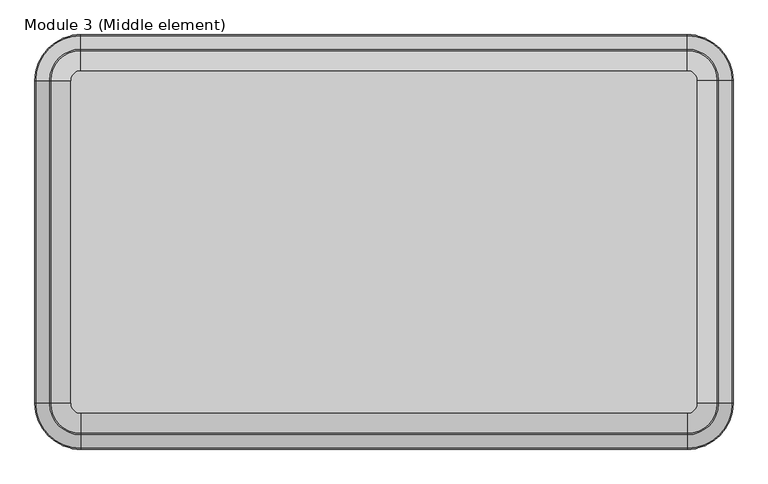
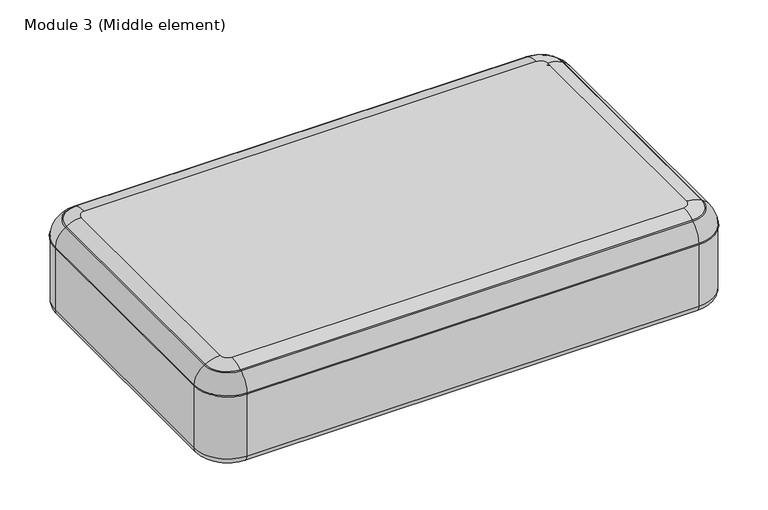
"""IFC4 building model written with IfcOpenShell, lengths in millimetres: furniture geometry, Module 3 (Middle element) : 1400х930х710мм."""

from ifc_helpers import new_model, si_unit, point, frame, origin, place, context, project, spatial, polyline, circle_curve, ellipse_curve, trimmed, source, transform, mapped, element, save
from ifc_brep_helpers import plane_surface, cylinder_surface, revolved_surface, advanced_brep


def module_3_middle_element_18c09e5f(model_context):
    return source(origin(), model_context, "Body", "AdvancedBrep", [
        advanced_brep(
        [(90.0, -930.0, 190.0), (0.0, -840.0, 190.0), (20.0, -840.0, 170.0), (90.0, -910.0, 170.0), (90.0, -930.0, 369.0816596), (0.0, -840.0, 369.0816596), (90.0, -903.0932178, 417.1277728), (26.9067822, -840.0, 417.1277728), (0.0043962, -840.0, 370.2686252), (90.0, -929.9956038, 370.2686252), (90.0, -900.2270188, 418.8499589), (29.7729812, -840.0, 418.8499589), (90.0, -860.0212696, 430.0), (69.9787304, -840.0, 430.0), (1310.0, -910.0, 170.0), (1310.0, -930.0, 190.0), (1310.0, -930.0, 369.0816596), (1310.0, -929.9956038, 370.2686252), (1310.0, -903.0932178, 417.1277728), (1310.0, -900.2270188, 418.8499589), (1310.0, -860.0212696, 430.0), (1380.0, -840.0, 170.0), (1400.0, -840.0, 190.0), (1400.0, -840.0, 369.0816596), (1399.9956038, -840.0, 370.2686252), (1373.0932178, -840.0, 417.1277728), (1370.2270188, -840.0, 418.8499589), (1330.0212696, -840.0, 430.0), (1380.0, -190.0, 170.0), (1400.0, -190.0, 190.0), (1400.0, -190.0, 369.0816596), (1399.9956038, -190.0, 370.2686252), (1373.0932178, -190.0, 417.1277728), (1370.2270188, -190.0, 418.8499589), (1330.0212696, -190.0, 430.0), (1310.0, -120.0, 170.0), (1310.0, -100.0, 190.0), (1310.0, -100.0, 369.0816596), (1310.0, -100.0043962, 370.2686252), (1310.0, -126.9067822, 417.1277728), (1310.0, -129.7729812, 418.8499589), (1310.0, -169.9787304, 430.0), (90.0, -120.0, 170.0), (90.0, -100.0, 190.0), (90.0, -100.0, 369.0816596), (90.0, -100.0043962, 370.2686252), (90.0, -126.9067822, 417.1277728), (90.0, -129.7729812, 418.8499589), (90.0, -169.9787304, 430.0), (20.0, -190.0, 170.0), (0.0, -190.0, 190.0), (0.0, -190.0, 369.0816596), (0.0043962, -190.0, 370.2686252), (26.9067822, -190.0, 417.1277728), (29.7729812, -190.0, 418.8499589), (69.9787304, -190.0, 430.0)],
        [
            (0, 1, circle_curve(frame((90.0, -840.0, 190.0), z_axis=(0.0, 0.0, -1.0), x_axis=(-1.0, 0.0, 0.0)), 90.0)),
            (1, 2, circle_curve(frame((20.0, -840.0, 190.0), z_axis=(0.0, -1.0, 0.0), x_axis=(1.0, 0.0, 0.0)), 20.0)),
            (2, 3, circle_curve(frame((90.0, -840.0, 170.0), z_axis=(0.0, 0.0, 1.0), x_axis=(-1.0, 0.0, 0.0)), 70.0)),
            (3, 0, circle_curve(frame((90.0, -910.0, 190.0), z_axis=(-1.0, 0.0, 0.0), x_axis=(0.0, 1.0, 0.0)), 20.0)),
            (0, 4),
            (4, 5, circle_curve(frame((90.0, -840.0, 369.0816596), z_axis=(0.0, 0.0, -1.0), x_axis=(-1.0, 0.0, 0.0)), 90.0)),
            (5, 1),
            (6, 7, circle_curve(frame((90.0, -840.0, 417.1277728), z_axis=(0.0, 0.0, -1.0), x_axis=(-1.0, 0.0, 0.0)), 63.0932178)),
            (7, 8, circle_curve(frame((55.482257, -840.0, 369.5701963), z_axis=(0.0, -1.0, 0.0), x_axis=(1.0, 0.0, 0.0)), 55.482257)),
            (8, 9, circle_curve(frame((90.0, -840.0, 370.2686252), z_axis=(0.0, 0.0, 1.0), x_axis=(-1.0, 0.0, 0.0)), 89.9956038)),
            (9, 6, circle_curve(frame((90.0, -874.517743, 369.5701963), z_axis=(-1.0, 0.0, 0.0), x_axis=(0.0, 1.0, 0.0)), 55.482257)),
            (6, 10),
            (10, 11, circle_curve(frame((90.0, -840.0, 418.8499589), z_axis=(0.0, 0.0, -1.0), x_axis=(-1.0, 0.0, 0.0)), 60.2270188)),
            (11, 7),
            (10, 12, circle_curve(frame((90.0, -860.0212696, 351.9363554), z_axis=(-1.0, 0.0, 0.0), x_axis=(0.0, 1.0, 0.0)), 78.0636446)),
            (12, 13, circle_curve(frame((90.0, -840.0, 430.0), z_axis=(0.0, 0.0, -1.0), x_axis=(-1.0, 0.0, 0.0)), 20.0212696)),
            (13, 11, circle_curve(frame((69.9787304, -840.0, 351.9363554), z_axis=(0.0, -1.0, 0.0), x_axis=(1.0, 0.0, 0.0)), 78.0636446)),
            (3, 14),
            (14, 15, circle_curve(frame((1310.0, -910.0, 190.0), z_axis=(-1.0, 0.0, 0.0), x_axis=(0.0, 1.0, 0.0)), 20.0)),
            (15, 0),
            (15, 16),
            (16, 4),
            (9, 17),
            (17, 18, circle_curve(frame((1310.0, -874.517743, 369.5701963), z_axis=(-1.0, 0.0, 0.0), x_axis=(0.0, 1.0, 0.0)), 55.482257)),
            (18, 6),
            (18, 19),
            (19, 10),
            (19, 20, circle_curve(frame((1310.0, -860.0212696, 351.9363554), z_axis=(-1.0, 0.0, 0.0), x_axis=(0.0, 1.0, 0.0)), 78.0636446)),
            (20, 12),
            (14, 21, circle_curve(frame((1310.0, -840.0, 170.0), z_axis=(0.0, 0.0, 1.0), x_axis=(0.0, -1.0, 0.0)), 70.0)),
            (21, 22, circle_curve(frame((1380.0, -840.0, 190.0), z_axis=(0.0, -1.0, 0.0), x_axis=(-1.0, 0.0, 0.0)), 20.0)),
            (22, 15, circle_curve(frame((1310.0, -840.0, 190.0), z_axis=(0.0, 0.0, -1.0), x_axis=(0.0, -1.0, 0.0)), 90.0)),
            (22, 23),
            (23, 16, circle_curve(frame((1310.0, -840.0, 369.0816596), z_axis=(0.0, 0.0, -1.0), x_axis=(0.0, -1.0, 0.0)), 90.0)),
            (17, 24, circle_curve(frame((1310.0, -840.0, 370.2686252), z_axis=(0.0, 0.0, 1.0), x_axis=(0.0, -1.0, 0.0)), 89.9956038)),
            (24, 25, circle_curve(frame((1344.517743, -840.0, 369.5701963), z_axis=(0.0, -1.0, 0.0), x_axis=(-1.0, 0.0, 0.0)), 55.482257)),
            (25, 18, circle_curve(frame((1310.0, -840.0, 417.1277728), z_axis=(0.0, 0.0, -1.0), x_axis=(0.0, -1.0, 0.0)), 63.0932178)),
            (25, 26),
            (26, 19, circle_curve(frame((1310.0, -840.0, 418.8499589), z_axis=(0.0, 0.0, -1.0), x_axis=(0.0, -1.0, 0.0)), 60.2270188)),
            (26, 27, circle_curve(frame((1330.0212696, -840.0, 351.9363554), z_axis=(0.0, -1.0, 0.0), x_axis=(-1.0, 0.0, 0.0)), 78.0636446)),
            (27, 20, circle_curve(frame((1310.0, -840.0, 430.0), z_axis=(0.0, 0.0, -1.0), x_axis=(0.0, -1.0, 0.0)), 20.0212696)),
            (21, 28),
            (28, 29, circle_curve(frame((1380.0, -190.0, 190.0), z_axis=(0.0, -1.0, 0.0), x_axis=(-1.0, 0.0, 0.0)), 20.0)),
            (29, 22),
            (29, 30),
            (30, 23),
            (24, 31),
            (31, 32, circle_curve(frame((1344.517743, -190.0, 369.5701963), z_axis=(0.0, -1.0, 0.0), x_axis=(-1.0, 0.0, 0.0)), 55.482257)),
            (32, 25),
            (32, 33),
            (33, 26),
            (33, 34, circle_curve(frame((1330.0212696, -190.0, 351.9363554), z_axis=(0.0, -1.0, 0.0), x_axis=(-1.0, 0.0, 0.0)), 78.0636446)),
            (34, 27),
            (28, 35, circle_curve(frame((1310.0, -190.0, 170.0), z_axis=(0.0, 0.0, 1.0), x_axis=(1.0, 0.0, 0.0)), 70.0)),
            (35, 36, circle_curve(frame((1310.0, -120.0, 190.0), z_axis=(1.0, 0.0, 0.0), x_axis=(0.0, -1.0, 0.0)), 20.0)),
            (36, 29, circle_curve(frame((1310.0, -190.0, 190.0), z_axis=(0.0, 0.0, -1.0), x_axis=(1.0, 0.0, 0.0)), 90.0)),
            (36, 37),
            (37, 30, circle_curve(frame((1310.0, -190.0, 369.0816596), z_axis=(0.0, 0.0, -1.0), x_axis=(1.0, 0.0, 0.0)), 90.0)),
            (31, 38, circle_curve(frame((1310.0, -190.0, 370.2686252), z_axis=(0.0, 0.0, 1.0), x_axis=(1.0, 0.0, 0.0)), 89.9956038)),
            (38, 39, circle_curve(frame((1310.0, -155.482257, 369.5701963), z_axis=(1.0, 0.0, 0.0), x_axis=(0.0, -1.0, 0.0)), 55.482257)),
            (39, 32, circle_curve(frame((1310.0, -190.0, 417.1277728), z_axis=(0.0, 0.0, -1.0), x_axis=(1.0, 0.0, 0.0)), 63.0932178)),
            (39, 40),
            (40, 33, circle_curve(frame((1310.0, -190.0, 418.8499589), z_axis=(0.0, 0.0, -1.0), x_axis=(1.0, 0.0, 0.0)), 60.2270188)),
            (40, 41, circle_curve(frame((1310.0, -169.9787304, 351.9363554), z_axis=(1.0, 0.0, 0.0), x_axis=(0.0, -1.0, 0.0)), 78.0636446)),
            (41, 34, circle_curve(frame((1310.0, -190.0, 430.0), z_axis=(0.0, 0.0, -1.0), x_axis=(1.0, 0.0, 0.0)), 20.0212696)),
            (35, 42),
            (42, 43, circle_curve(frame((90.0, -120.0, 190.0), z_axis=(1.0, 0.0, 0.0), x_axis=(0.0, -1.0, 0.0)), 20.0)),
            (43, 36),
            (43, 44),
            (44, 37),
            (38, 45),
            (45, 46, circle_curve(frame((90.0, -155.482257, 369.5701963), z_axis=(1.0, 0.0, 0.0), x_axis=(0.0, -1.0, 0.0)), 55.482257)),
            (46, 39),
            (46, 47),
            (47, 40),
            (47, 48, circle_curve(frame((90.0, -169.9787304, 351.9363554), z_axis=(1.0, 0.0, 0.0), x_axis=(0.0, -1.0, 0.0)), 78.0636446)),
            (48, 41),
            (42, 49, circle_curve(frame((90.0, -190.0, 170.0), z_axis=(0.0, 0.0, 1.0), x_axis=(0.0, 1.0, 0.0)), 70.0)),
            (49, 50, circle_curve(frame((20.0, -190.0, 190.0), z_axis=(0.0, 1.0, 0.0), x_axis=(1.0, 0.0, 0.0)), 20.0)),
            (50, 43, circle_curve(frame((90.0, -190.0, 190.0), z_axis=(0.0, 0.0, -1.0), x_axis=(0.0, 1.0, 0.0)), 90.0)),
            (50, 51),
            (51, 44, circle_curve(frame((90.0, -190.0, 369.0816596), z_axis=(0.0, 0.0, -1.0), x_axis=(0.0, 1.0, 0.0)), 90.0)),
            (45, 52, circle_curve(frame((90.0, -190.0, 370.2686252), z_axis=(0.0, 0.0, 1.0), x_axis=(0.0, 1.0, 0.0)), 89.9956038)),
            (52, 53, circle_curve(frame((55.482257, -190.0, 369.5701963), z_axis=(0.0, 1.0, 0.0), x_axis=(1.0, 0.0, 0.0)), 55.482257)),
            (53, 46, circle_curve(frame((90.0, -190.0, 417.1277728), z_axis=(0.0, 0.0, -1.0), x_axis=(0.0, 1.0, 0.0)), 63.0932178)),
            (53, 54),
            (54, 47, circle_curve(frame((90.0, -190.0, 418.8499589), z_axis=(0.0, 0.0, -1.0), x_axis=(0.0, 1.0, 0.0)), 60.2270188)),
            (54, 55, circle_curve(frame((69.9787304, -190.0, 351.9363554), z_axis=(0.0, 1.0, 0.0), x_axis=(1.0, 0.0, 0.0)), 78.0636446)),
            (55, 48, circle_curve(frame((90.0, -190.0, 430.0), z_axis=(0.0, 0.0, -1.0), x_axis=(0.0, 1.0, 0.0)), 20.0212696)),
            (55, 13),
            (2, 49),
            (1, 50),
            (5, 51),
            (7, 53),
            (52, 8),
            (11, 54),
            (4, 9, circle_curve(frame((90.0, -930.8026401, 369.6781233), z_axis=(-1.0, 0.0, 0.0), x_axis=(0.0, 1.0, 0.0)), 1.0)),
            (8, 5, circle_curve(frame((-0.8026401, -840.0, 369.6781233), z_axis=(0.0, -1.0, 0.0), x_axis=(1.0, 0.0, 0.0)), 1.0)),
            (16, 17, circle_curve(frame((1310.0, -930.8026401, 369.6781233), z_axis=(-1.0, 0.0, 0.0), x_axis=(0.0, 1.0, 0.0)), 1.0)),
            (23, 24, circle_curve(frame((1400.8026401, -840.0, 369.6781233), z_axis=(0.0, -1.0, 0.0), x_axis=(-1.0, 0.0, 0.0)), 1.0)),
            (30, 31, circle_curve(frame((1400.8026401, -190.0, 369.6781233), z_axis=(0.0, -1.0, 0.0), x_axis=(-1.0, 0.0, 0.0)), 1.0)),
            (37, 38, circle_curve(frame((1310.0, -99.1973599, 369.6781233), z_axis=(1.0, 0.0, 0.0), x_axis=(0.0, -1.0, 0.0)), 1.0)),
            (44, 45, circle_curve(frame((90.0, -99.1973599, 369.6781233), z_axis=(1.0, 0.0, 0.0), x_axis=(0.0, -1.0, 0.0)), 1.0)),
            (51, 52, circle_curve(frame((-0.8026401, -190.0, 369.6781233), z_axis=(0.0, 1.0, 0.0), x_axis=(1.0, 0.0, 0.0)), 1.0)),
        ],
        [
            revolved_surface(trimmed(ellipse_curve(frame((20.0, -840.0, 190.0), z_axis=(0.0, 1.0, 0.0), x_axis=(1.0, 0.0, 0.0)), 20.0, 20.0), [point((20.0, -840.0, 170.0))], [point((0.0, -840.0, 190.0))], True, "CARTESIAN"), (90.0, -840.0, 430.0), (0.0, 0.0, 1.0)),
            cylinder_surface(frame((90.0, -840.0, 430.0), z_axis=(0.0, 0.0, 1.0), x_axis=(-1.0, 0.0, 0.0)), 90.0),
            revolved_surface(trimmed(ellipse_curve(frame((55.482257, -840.0, 369.5701963), z_axis=(0.0, 1.0, 0.0), x_axis=(1.0, 0.0, 0.0)), 55.482257, 55.482257), [point((0.0043962, -840.0, 370.2686252))], [point((26.9067822, -840.0, 417.1277728))], True, "CARTESIAN"), (90.0, -840.0, 430.0), (0.0, 0.0, 1.0)),
            revolved_surface(polyline([(26.9067822, -840.0, 417.1277728), (29.7729812, -840.0, 418.8499589)]), (90.0, -840.0, 430.0), (0.0, 0.0, 1.0)),
            revolved_surface(trimmed(ellipse_curve(frame((69.9787304, -840.0, 351.9363554), z_axis=(0.0, 1.0, 0.0), x_axis=(1.0, 0.0, 0.0)), 78.0636446, 78.0636446), [point((29.7729812, -840.0, 418.8499589))], [point((69.9787304, -840.0, 430.0))], True, "CARTESIAN"), (90.0, -840.0, 430.0), (0.0, 0.0, 1.0)),
            cylinder_surface(frame((90.0, -910.0, 190.0), z_axis=(-1.0, 0.0, 0.0), x_axis=(0.0, 1.0, 0.0)), 20.0),
            plane_surface(frame((90.0, -930.0, 190.0), z_axis=(0.0, -1.0, 0.0), x_axis=(1.0, 0.0, 0.0))),
            cylinder_surface(frame((90.0, -874.517743, 369.5701963), z_axis=(-1.0, 0.0, 0.0), x_axis=(0.0, 1.0, 0.0)), 55.482257),
            plane_surface(frame((90.0, -903.0932178, 417.1277728), z_axis=(0.0, -0.5150380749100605, 0.8571673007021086), x_axis=(1.0, 0.0, 0.0))),
            cylinder_surface(frame((90.0, -860.0212696, 351.9363554), z_axis=(-1.0, 0.0, 0.0), x_axis=(0.0, 1.0, 0.0)), 78.0636446),
            revolved_surface(trimmed(ellipse_curve(frame((1310.0, -910.0, 190.0), z_axis=(-1.0, 0.0, 0.0), x_axis=(0.0, 1.0, 0.0)), 20.0, 20.0), [point((1310.0, -910.0, 170.0))], [point((1310.0, -930.0, 190.0))], True, "CARTESIAN"), (1310.0, -840.0, 430.0), (0.0, 0.0, 1.0)),
            cylinder_surface(frame((1310.0, -840.0, 430.0), z_axis=(0.0, 0.0, 1.0), x_axis=(0.0, -1.0, 0.0)), 90.0),
            revolved_surface(trimmed(ellipse_curve(frame((1310.0, -874.517743, 369.5701963), z_axis=(-1.0, 0.0, 0.0), x_axis=(0.0, 1.0, 0.0)), 55.482257, 55.482257), [point((1310.0, -929.9956038, 370.2686252))], [point((1310.0, -903.0932178, 417.1277728))], True, "CARTESIAN"), (1310.0, -840.0, 430.0), (0.0, 0.0, 1.0)),
            revolved_surface(polyline([(1310.0, -903.0932178, 417.1277728), (1310.0, -900.2270188, 418.8499589)]), (1310.0, -840.0, 430.0), (0.0, 0.0, 1.0)),
            revolved_surface(trimmed(ellipse_curve(frame((1310.0, -860.0212696, 351.9363554), z_axis=(-1.0, 0.0, 0.0), x_axis=(0.0, 1.0, 0.0)), 78.0636446, 78.0636446), [point((1310.0, -900.2270188, 418.8499589))], [point((1310.0, -860.0212696, 430.0))], True, "CARTESIAN"), (1310.0, -840.0, 430.0), (0.0, 0.0, 1.0)),
            cylinder_surface(frame((1380.0, -840.0, 190.0), z_axis=(0.0, -1.0, 0.0), x_axis=(-1.0, 0.0, 0.0)), 20.0),
            plane_surface(frame((1400.0, -840.0, 190.0), z_axis=(1.0, 0.0, 0.0), x_axis=(0.0, 1.0, 0.0))),
            cylinder_surface(frame((1344.517743, -840.0, 369.5701963), z_axis=(0.0, -1.0, 0.0), x_axis=(-1.0, 0.0, 0.0)), 55.482257),
            plane_surface(frame((1373.0932178, -840.0, 417.1277728), z_axis=(0.5150380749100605, 0.0, 0.8571673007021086), x_axis=(0.0, 1.0, 0.0))),
            cylinder_surface(frame((1330.0212696, -840.0, 351.9363554), z_axis=(0.0, -1.0, 0.0), x_axis=(-1.0, 0.0, 0.0)), 78.0636446),
            revolved_surface(trimmed(ellipse_curve(frame((1380.0, -190.0, 190.0), z_axis=(0.0, -1.0, 0.0), x_axis=(-1.0, 0.0, 0.0)), 20.0, 20.0), [point((1380.0, -190.0, 170.0))], [point((1400.0, -190.0, 190.0))], True, "CARTESIAN"), (1310.0, -190.0, 430.0), (0.0, 0.0, 1.0)),
            cylinder_surface(frame((1310.0, -190.0, 430.0), z_axis=(0.0, 0.0, 1.0), x_axis=(1.0, 0.0, 0.0)), 90.0),
            revolved_surface(trimmed(ellipse_curve(frame((1344.517743, -190.0, 369.5701963), z_axis=(0.0, -1.0, 0.0), x_axis=(-1.0, 0.0, 0.0)), 55.482257, 55.482257), [point((1399.9956038, -190.0, 370.2686252))], [point((1373.0932178, -190.0, 417.1277728))], True, "CARTESIAN"), (1310.0, -190.0, 430.0), (0.0, 0.0, 1.0)),
            revolved_surface(polyline([(1373.0932178, -190.0, 417.1277728), (1370.2270188, -190.0, 418.8499589)]), (1310.0, -190.0, 430.0), (0.0, 0.0, 1.0)),
            revolved_surface(trimmed(ellipse_curve(frame((1330.0212696, -190.0, 351.9363554), z_axis=(0.0, -1.0, 0.0), x_axis=(-1.0, 0.0, 0.0)), 78.0636446, 78.0636446), [point((1370.2270188, -190.0, 418.8499589))], [point((1330.0212696, -190.0, 430.0))], True, "CARTESIAN"), (1310.0, -190.0, 430.0), (0.0, 0.0, 1.0)),
            cylinder_surface(frame((1310.0, -120.0, 190.0), z_axis=(1.0, 0.0, 0.0), x_axis=(0.0, -1.0, 0.0)), 20.0),
            plane_surface(frame((1310.0, -100.0, 190.0), z_axis=(0.0, 1.0, 0.0), x_axis=(-1.0, 0.0, 0.0))),
            cylinder_surface(frame((1310.0, -155.482257, 369.5701963), z_axis=(1.0, 0.0, 0.0), x_axis=(0.0, -1.0, 0.0)), 55.482257),
            plane_surface(frame((1310.0, -126.9067822, 417.1277728), z_axis=(0.0, 0.5150380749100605, 0.8571673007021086), x_axis=(-1.0, 0.0, 0.0))),
            cylinder_surface(frame((1310.0, -169.9787304, 351.9363554), z_axis=(1.0, 0.0, 0.0), x_axis=(0.0, -1.0, 0.0)), 78.0636446),
            revolved_surface(trimmed(ellipse_curve(frame((90.0, -120.0, 190.0), z_axis=(1.0, 0.0, 0.0), x_axis=(0.0, -1.0, 0.0)), 20.0, 20.0), [point((90.0, -120.0, 170.0))], [point((90.0, -100.0, 190.0))], True, "CARTESIAN"), (90.0, -190.0, 430.0), (0.0, 0.0, 1.0)),
            cylinder_surface(frame((90.0, -190.0, 430.0), z_axis=(0.0, 0.0, 1.0), x_axis=(0.0, 1.0, 0.0)), 90.0),
            revolved_surface(trimmed(ellipse_curve(frame((90.0, -155.482257, 369.5701963), z_axis=(1.0, 0.0, 0.0), x_axis=(0.0, -1.0, 0.0)), 55.482257, 55.482257), [point((90.0, -100.0043962, 370.2686252))], [point((90.0, -126.9067822, 417.1277728))], True, "CARTESIAN"), (90.0, -190.0, 430.0), (0.0, 0.0, 1.0)),
            revolved_surface(polyline([(90.0, -126.9067822, 417.1277728), (90.0, -129.7729812, 418.8499589)]), (90.0, -190.0, 430.0), (0.0, 0.0, 1.0)),
            revolved_surface(trimmed(ellipse_curve(frame((90.0, -169.9787304, 351.9363554), z_axis=(1.0, 0.0, 0.0), x_axis=(0.0, -1.0, 0.0)), 78.0636446, 78.0636446), [point((90.0, -129.7729812, 418.8499589))], [point((90.0, -169.9787304, 430.0))], True, "CARTESIAN"), (90.0, -190.0, 430.0), (0.0, 0.0, 1.0)),
            plane_surface(frame((69.9787304, -190.0, 430.0), z_axis=(0.0, 0.0, 1.0), x_axis=(0.0, -1.0, 0.0))),
            plane_surface(frame((80.0, -190.0, 170.0), z_axis=(0.0, 0.0, -1.0), x_axis=(0.0, -1.0, 0.0))),
            cylinder_surface(frame((20.0, -190.0, 190.0), z_axis=(0.0, 1.0, 0.0), x_axis=(1.0, 0.0, 0.0)), 20.0),
            plane_surface(frame((0.0, -190.0, 190.0), z_axis=(-1.0, 0.0, 0.0), x_axis=(0.0, -1.0, 0.0))),
            cylinder_surface(frame((55.482257, -190.0, 369.5701963), z_axis=(0.0, 1.0, 0.0), x_axis=(1.0, 0.0, 0.0)), 55.482257),
            plane_surface(frame((26.9067822, -190.0, 417.1277728), z_axis=(-0.5150380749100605, 0.0, 0.8571673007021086), x_axis=(0.0, -1.0, 0.0))),
            cylinder_surface(frame((69.9787304, -190.0, 351.9363554), z_axis=(0.0, 1.0, 0.0), x_axis=(1.0, 0.0, 0.0)), 78.0636446),
            revolved_surface(trimmed(ellipse_curve(frame((-0.8026401, -840.0, 369.6781233), z_axis=(0.0, 1.0, 0.0), x_axis=(1.0, 0.0, 0.0)), 1.0, 1.0), [point((0.0, -840.0, 369.0816596))], [point((0.0043962, -840.0, 370.2686252))], True, "CARTESIAN"), (90.0, -840.0, 430.0), (0.0, 0.0, 1.0)),
            cylinder_surface(frame((90.0, -930.8026401, 369.6781233), z_axis=(-1.0, 0.0, 0.0), x_axis=(0.0, 1.0, 0.0)), 1.0),
            revolved_surface(trimmed(ellipse_curve(frame((1310.0, -930.8026401, 369.6781233), z_axis=(-1.0, 0.0, 0.0), x_axis=(0.0, 1.0, 0.0)), 1.0, 1.0), [point((1310.0, -930.0, 369.0816596))], [point((1310.0, -929.9956038, 370.2686252))], True, "CARTESIAN"), (1310.0, -840.0, 430.0), (0.0, 0.0, 1.0)),
            cylinder_surface(frame((1400.8026401, -840.0, 369.6781233), z_axis=(0.0, -1.0, 0.0), x_axis=(-1.0, 0.0, 0.0)), 1.0),
            revolved_surface(trimmed(ellipse_curve(frame((1400.8026401, -190.0, 369.6781233), z_axis=(0.0, -1.0, 0.0), x_axis=(-1.0, 0.0, 0.0)), 1.0, 1.0), [point((1400.0, -190.0, 369.0816596))], [point((1399.9956038, -190.0, 370.2686252))], True, "CARTESIAN"), (1310.0, -190.0, 430.0), (0.0, 0.0, 1.0)),
            cylinder_surface(frame((1310.0, -99.1973599, 369.6781233), z_axis=(1.0, 0.0, 0.0), x_axis=(0.0, -1.0, 0.0)), 1.0),
            revolved_surface(trimmed(ellipse_curve(frame((90.0, -99.1973599, 369.6781233), z_axis=(1.0, 0.0, 0.0), x_axis=(0.0, -1.0, 0.0)), 1.0, 1.0), [point((90.0, -100.0, 369.0816596))], [point((90.0, -100.0043962, 370.2686252))], True, "CARTESIAN"), (90.0, -190.0, 430.0), (0.0, 0.0, 1.0)),
            cylinder_surface(frame((-0.8026401, -190.0, 369.6781233), z_axis=(0.0, 1.0, 0.0), x_axis=(1.0, 0.0, 0.0)), 1.0),
        ],
        [
            (0, [[1, 2, 3, 4]]),
            (1, [[-1, 5, 6, 7]]),
            (2, [[8, 9, 10, 11]]),
            (3, [[-8, 12, 13, 14]]),
            (4, [[-13, 15, 16, 17]]),
            (5, [[-4, 18, 19, 20]]),
            (6, [[-5, -20, 21, 22]]),
            (7, [[-11, 23, 24, 25]]),
            (8, [[-12, -25, 26, 27]]),
            (9, [[-15, -27, 28, 29]]),
            (10, [[-19, 30, 31, 32]]),
            (11, [[-21, -32, 33, 34]]),
            (12, [[-24, 35, 36, 37]]),
            (13, [[-26, -37, 38, 39]]),
            (14, [[-28, -39, 40, 41]]),
            (15, [[-31, 42, 43, 44]]),
            (16, [[-33, -44, 45, 46]]),
            (17, [[-36, 47, 48, 49]]),
            (18, [[-38, -49, 50, 51]]),
            (19, [[-40, -51, 52, 53]]),
            (20, [[-43, 54, 55, 56]]),
            (21, [[-45, -56, 57, 58]]),
            (22, [[-48, 59, 60, 61]]),
            (23, [[-50, -61, 62, 63]]),
            (24, [[-52, -63, 64, 65]]),
            (25, [[-55, 66, 67, 68]]),
            (26, [[-57, -68, 69, 70]]),
            (27, [[-60, 71, 72, 73]]),
            (28, [[-62, -73, 74, 75]]),
            (29, [[-64, -75, 76, 77]]),
            (30, [[-67, 78, 79, 80]]),
            (31, [[-69, -80, 81, 82]]),
            (32, [[-72, 83, 84, 85]]),
            (33, [[-74, -85, 86, 87]]),
            (34, [[-76, -87, 88, 89]]),
            (35, [[-16, -29, -41, -53, -65, -77, -89, 90]]),
            (36, [[-3, 91, -78, -66, -54, -42, -30, -18]]),
            (37, [[-2, 92, -79, -91]]),
            (38, [[-7, 93, -81, -92]]),
            (39, [[-9, 94, -84, 95]]),
            (40, [[-14, 96, -86, -94]]),
            (41, [[-17, -90, -88, -96]]),
            (42, [[-6, 97, -10, 98]]),
            (43, [[-22, 99, -23, -97]]),
            (44, [[-34, 100, -35, -99]]),
            (45, [[-46, 101, -47, -100]]),
            (46, [[-58, 102, -59, -101]]),
            (47, [[-70, 103, -71, -102]]),
            (48, [[-82, 104, -83, -103]]),
            (49, [[-93, -98, -95, -104]]),
        ],
    ),
    ])


if __name__ == "__main__":
    model = new_model("IFC4")
    model_context = context("Model", 3, world=origin())
    ifc_project = project(units=[si_unit("LENGTHUNIT", "METRE", prefix="MILLI")], contexts=[model_context])
    site = spatial("IfcSite", under=ifc_project)
    building = spatial("IfcBuilding", under=site)
    placement = place(None, origin())
    module_3_middle_element_shape = module_3_middle_element_18c09e5f(model_context)
    element("IfcFurniture", 1, ObjectType="Module 3 (Middle element) : 1400х930х710мм", at=placement, inside=building, context=model_context, shape_type="MappedRepresentation", body=[
        mapped(module_3_middle_element_shape, transform((0.0, 0.0, 0.0), x_axis=(1.0, 0.0, 0.0), y_axis=(0.0, 1.0, 0.0), z_axis=(0.0, 0.0, 1.0))),
    ])
    save(model, "model.ifc")
